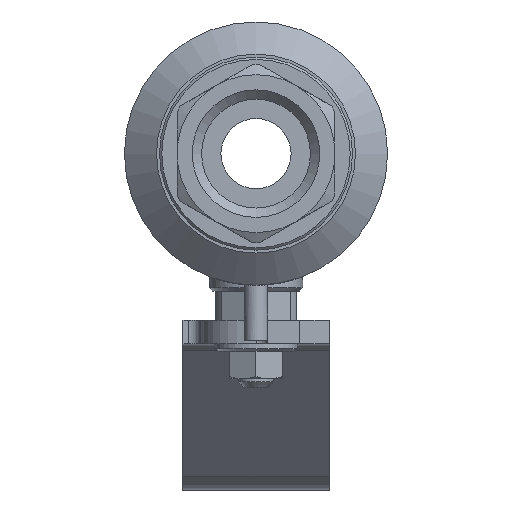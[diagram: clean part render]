
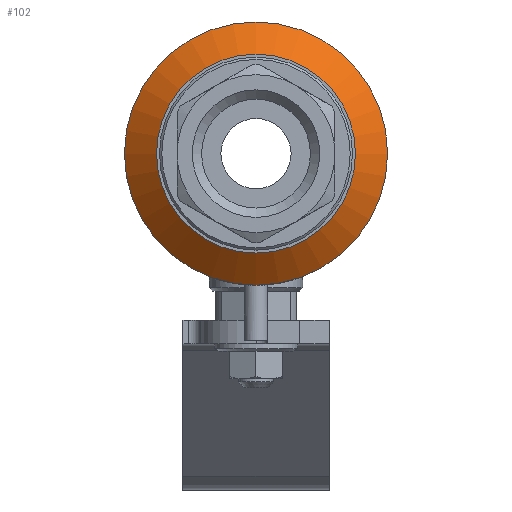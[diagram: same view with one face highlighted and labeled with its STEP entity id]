
A CAD part, left-side view. The second image highlights one B-rep face of the part: STEP entity #102.
In plain terms, the highlighted conical face has half-angle 50 degrees and reference radius 19.75 mm.
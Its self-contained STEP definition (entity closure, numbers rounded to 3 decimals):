
#102=ADVANCED_FACE('',(#847),#849,.T.);
#847=FACE_OUTER_BOUND('',#848,.T.);
#848=EDGE_LOOP('',(#2076,#2077,#2078,#2079));
#849=CONICAL_SURFACE('',#850,19.75,0.873);
#850=AXIS2_PLACEMENT_3D('',#851,#852,#853);
#851=CARTESIAN_POINT('',(-17.692,0.,0.));
#852=DIRECTION('',(1.,0.,0.));
#853=DIRECTION('',(0.,1.,0.));
#2076=ORIENTED_EDGE('',*,*,#3282,.T.);
#2077=ORIENTED_EDGE('',*,*,#3283,.T.);
#2078=ORIENTED_EDGE('',*,*,#3282,.F.);
#2079=ORIENTED_EDGE('',*,*,#3274,.F.);
#3274=EDGE_CURVE('',#3607,#3607,#3608,.T.);
#3282=EDGE_CURVE('',#3607,#3621,#3622,.T.);
#3283=EDGE_CURVE('',#3621,#3621,#3623,.T.);
#3607=VERTEX_POINT('',#4149);
#3608=CIRCLE('',#4150,17.);
#3621=VERTEX_POINT('',#4306);
#3622=LINE('',#4307,#4308);
#3623=CIRCLE('',#4310,22.5);
#4149=CARTESIAN_POINT('',(-20.,-17.,0.));
#4150=AXIS2_PLACEMENT_3D('',#4151,#4152,#4153);
#4151=CARTESIAN_POINT('',(-20.,0.,0.));
#4152=DIRECTION('',(-1.,-0.,-0.));
#4153=DIRECTION('',(0.,-1.,0.));
#4306=CARTESIAN_POINT('',(-15.385,-22.5,0.));
#4307=CARTESIAN_POINT('',(-20.,-17.,0.));
#4308=VECTOR('',#4309,1.);
#4309=DIRECTION('',(0.643,-0.766,0.));
#4310=AXIS2_PLACEMENT_3D('',#4311,#4312,#4313);
#4311=CARTESIAN_POINT('',(-15.385,0.,0.));
#4312=DIRECTION('',(-1.,-0.,0.));
#4313=DIRECTION('',(0.,-1.,0.));
